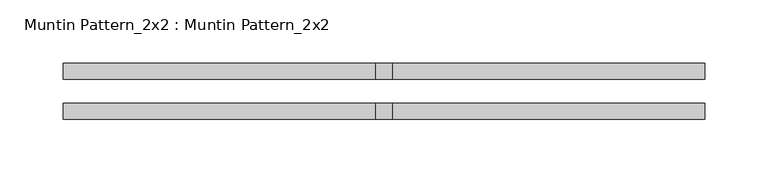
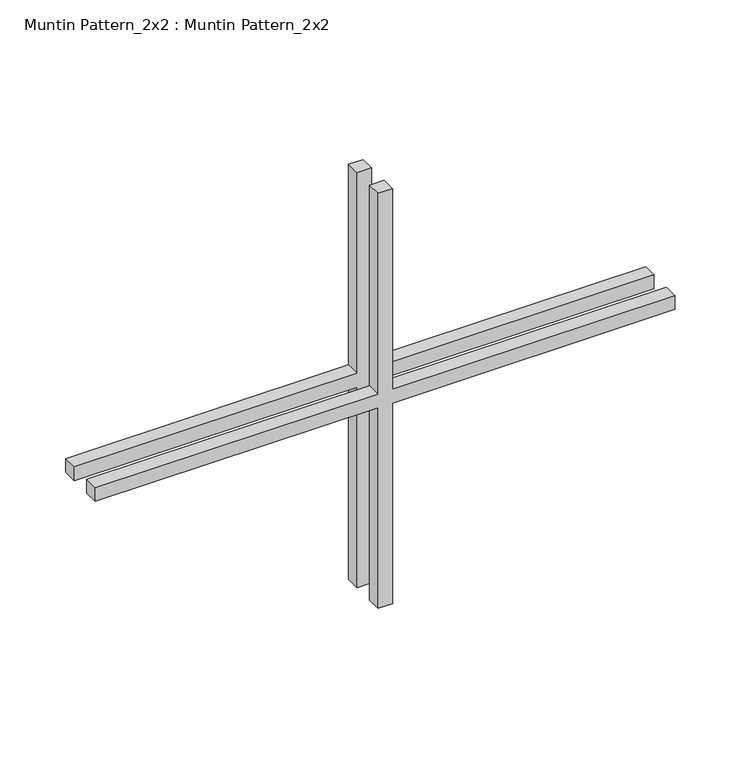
"""IFC4 building model written with IfcOpenShell, lengths in millimetres: proxy geometry, Muntin Pattern_2x2 : Muntin Pattern_2x2."""

from ifc_helpers import new_model, si_unit, frame, origin, place, context, project, spatial, polyline, outline, extrude, source, transform, mapped, element, save


def muntin_pattern_2x2_muntin_pattern_2x2_6fe0be13(model_context):
    return source(origin(), model_context, "Body", "SweptSolid", [
        extrude(outline(polyline([(198.4375, -6.35), (198.4375, -254.0), (185.7375, -254.0), (185.7375, -6.35), (0.0, -6.35), (0.0, 6.35), (185.7375, 6.35), (185.7375, 254.0), (198.4375, 254.0), (198.4375, 6.35), (384.175, 6.35), (384.175, -6.35), (198.4375, -6.35)])), frame((0.0, 9.525, 0.0), z_axis=(0.0, 1.0, 0.0), x_axis=(0.0, 0.0, 1.0)), (0.0, 0.0, 1.0), 12.7),
        extrude(outline(polyline([(198.4375, -6.35), (198.4375, -254.0), (185.7375, -254.0), (185.7375, -6.35), (0.0, -6.35), (0.0, 6.35), (185.7375, 6.35), (185.7375, 254.0), (198.4375, 254.0), (198.4375, 6.35), (384.175, 6.35), (384.175, -6.35), (198.4375, -6.35)])), frame((0.0, -22.225, 0.0), z_axis=(0.0, 1.0, 0.0), x_axis=(0.0, 0.0, 1.0)), (0.0, 0.0, 1.0), 12.7),
    ])


if __name__ == "__main__":
    model = new_model("IFC4")
    model_context = context("Model", 3, world=origin())
    ifc_project = project(units=[si_unit("LENGTHUNIT", "METRE", prefix="MILLI")], contexts=[model_context])
    site = spatial("IfcSite", under=ifc_project)
    building = spatial("IfcBuilding", under=site)
    placement = place(None, origin())
    muntin_pattern_2x2_muntin_pattern_2x2_shape = muntin_pattern_2x2_muntin_pattern_2x2_6fe0be13(model_context)
    element("IfcBuildingElementProxy", 1, Name="Muntin Pattern_2x2 : Muntin Pattern_2x2", ObjectType="Muntin Pattern_2x2 : Muntin Pattern_2x2", at=placement, inside=building, context=model_context, shape_type="MappedRepresentation", body=[
        mapped(muntin_pattern_2x2_muntin_pattern_2x2_shape, transform((0.0, 0.0, 0.0), x_axis=(1.0, 0.0, 0.0), y_axis=(0.0, 1.0, 0.0), z_axis=(0.0, 0.0, 1.0))),
    ])
    save(model, "model.ifc")
